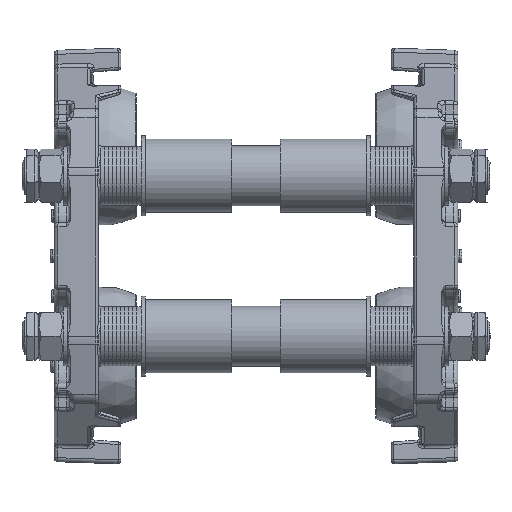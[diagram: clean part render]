
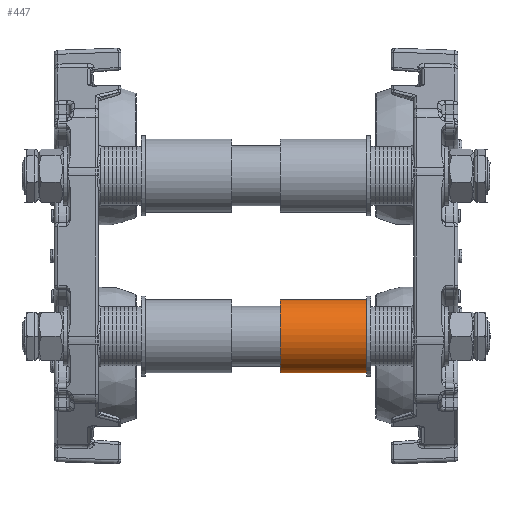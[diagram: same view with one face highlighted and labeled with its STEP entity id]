
A CAD part, front view. The second image highlights one B-rep face of the part: STEP entity #447.
In plain terms, the highlighted cylindrical face has radius 27.5 mm (diameter 55 mm), a full revolution.
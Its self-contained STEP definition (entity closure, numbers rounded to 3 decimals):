
#420=CARTESIAN_POINT('',(0.0,0.0,0.0));
#421=DIRECTION('',(0.0,0.0,1.0));
#422=DIRECTION('',(-1.0,0.0,0.0));
#423=AXIS2_PLACEMENT_3D('',#420,#421,#422);
#424=CYLINDRICAL_SURFACE('',#423,27.5);
#425=CARTESIAN_POINT('',(27.5,0.,65.0));
#426=VERTEX_POINT('',#425);
#427=CARTESIAN_POINT('',(0.0,0.0,65.0));
#428=DIRECTION('',(0.0,0.0,-1.0));
#429=DIRECTION('',(-1.0,0.0,0.0));
#430=AXIS2_PLACEMENT_3D('',#427,#428,#429);
#431=CIRCLE('',#430,27.5);
#432=EDGE_CURVE('',#426,#426,#431,.T.);
#433=ORIENTED_EDGE('',*,*,#432,.T.);
#434=EDGE_LOOP('',(#433));
#435=FACE_OUTER_BOUND('',#434,.T.);
#436=CARTESIAN_POINT('',(27.5,0.,0.0));
#437=VERTEX_POINT('',#436);
#438=CARTESIAN_POINT('',(0.0,0.0,0.0));
#439=DIRECTION('',(0.0,0.0,-1.0));
#440=DIRECTION('',(-1.0,0.0,0.0));
#441=AXIS2_PLACEMENT_3D('',#438,#439,#440);
#442=CIRCLE('',#441,27.5);
#443=EDGE_CURVE('',#437,#437,#442,.T.);
#444=ORIENTED_EDGE('',*,*,#443,.F.);
#445=EDGE_LOOP('',(#444));
#446=FACE_BOUND('',#445,.T.);
#447=ADVANCED_FACE('',(#435,#446),#424,.T.);
